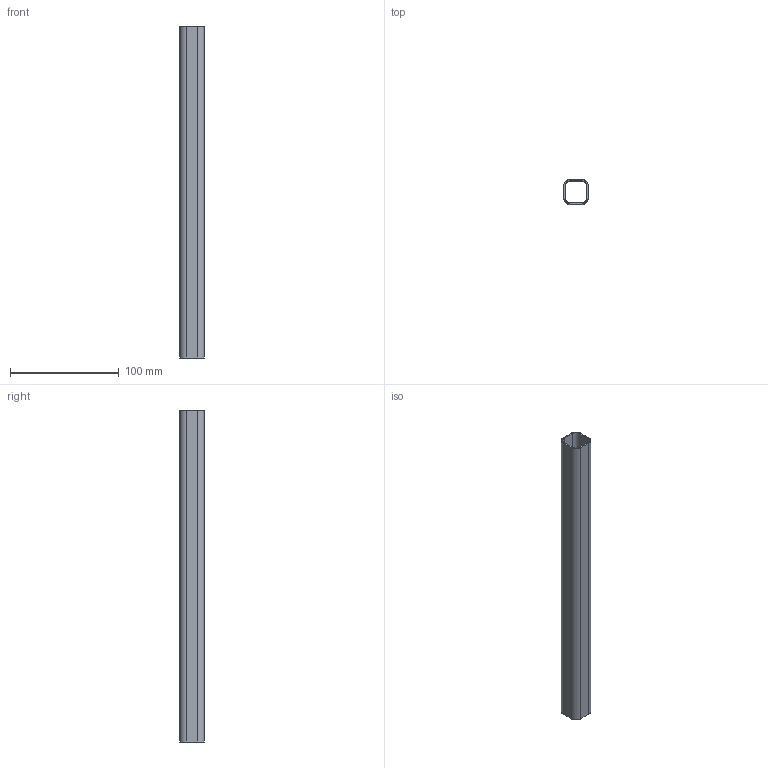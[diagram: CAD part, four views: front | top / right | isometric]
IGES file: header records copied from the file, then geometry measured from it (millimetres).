
Start section: SolidWorks IGES file using analytic representation for surfaces
Global section: file name: O:\Database\Dumb Solids - Coupling & Gussets\DRP-002-0001-03.IGS; native system: SolidWorks 2011; preprocessor: SolidWorks 2011; author: mbush2; date: 111206.171544; units: inch
Bounding box: 22.61 x 22.61 x 304.8 mm (x, y, z)
Surface area: 46486.7 mm2 (no closed solid volume)
Topology: 0 solids, 0 shells, 18 faces, 208 edges, 208 vertices
Faces by surface type: bspline 10, revolution 8
